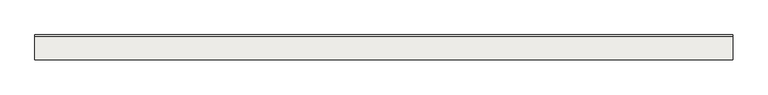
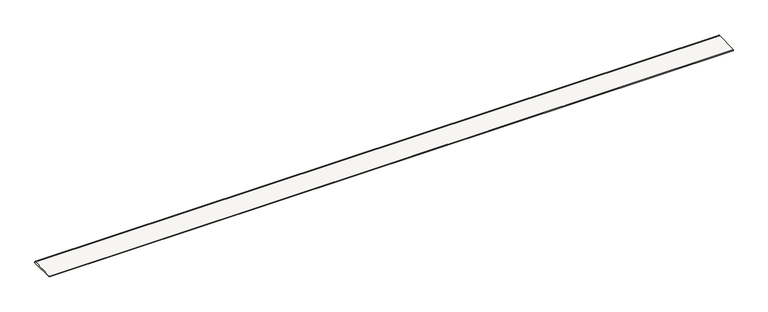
"""IFC4 building model written with IfcOpenShell, lengths in millimetres: slab geometry, ROSA GRES_S62 : Pieza S62_Serena_Ocra_Anti-Slip."""

from ifc_helpers import new_model, si_unit, point, frame, frame_2d, origin, place, context, project, spatial, polyline, circle_curve, trimmed, segment, composite_curve, outline, extrude, source, transform, mapped, element, save


def slab_10aa9b85(model_context):
    return source(origin(), model_context, "Body", "SweptSolid", [
        extrude(outline(composite_curve([segment(trimmed(circle_curve(frame_2d((1.0275626, -2.7080096)), 16.7800504), [point((0.261516, 14.0545458))], [point((15.0, -12.0))], False, "CARTESIAN"), True, "CONTINUOUS"), segment(polyline([(15.0, -12.0), (-291.6389713, -12.0), (-291.6389713, 0.0), (0.261516, 14.0545458)]), True, "CONTINUOUS")], self_intersect=False)), frame((0.0, 0.0, 0.0), z_axis=(1.0, 0.0, 0.0), x_axis=(0.0, 1.0, 0.0)), (0.0, 0.0, 1.0), 8660.0),
    ])


if __name__ == "__main__":
    model = new_model("IFC4")
    model_context = context("Model", 3, world=origin())
    ifc_project = project(units=[si_unit("LENGTHUNIT", "METRE", prefix="MILLI")], contexts=[model_context])
    site = spatial("IfcSite", under=ifc_project)
    building = spatial("IfcBuilding", under=site)
    placement = place(None, origin())
    slab_shape = slab_10aa9b85(model_context)
    element("IfcSlab", 1, ObjectType="ROSA GRES_S62 : Pieza S62_Serena_Ocra_Anti-Slip", at=placement, inside=building, context=model_context, shape_type="MappedRepresentation", body=[
        mapped(slab_shape, transform((0.0, 0.0, 0.0), x_axis=(1.0, 0.0, 0.0), y_axis=(0.0, 1.0, 0.0), z_axis=(0.0, 0.0, 1.0))),
    ])
    save(model, "model.ifc")
